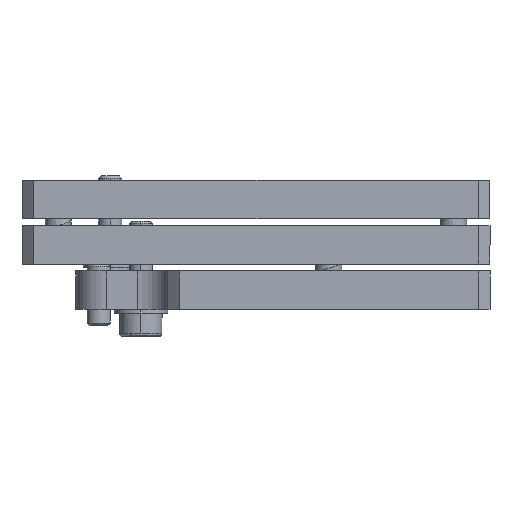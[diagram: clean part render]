
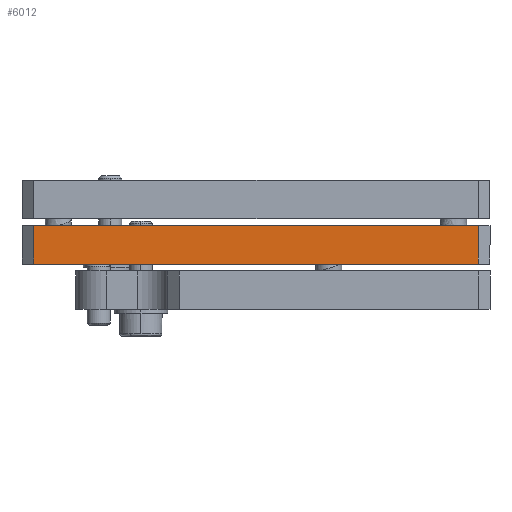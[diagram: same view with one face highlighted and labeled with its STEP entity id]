
A CAD part, front view. The second image highlights one B-rep face of the part: STEP entity #6012.
In plain terms, the highlighted planar face has unit normal (0, -1, 0).
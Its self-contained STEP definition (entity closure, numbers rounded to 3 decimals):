
#810 = CARTESIAN_POINT ( 'NONE',  ( 29.674, -28.407, -5.9 ) ) ;
#868 = CARTESIAN_POINT ( 'NONE',  ( -28.326, -28.407, -5.9 ) ) ;
#869 = DIRECTION ( 'NONE',  ( 1., 0., 0. ) ) ;
#870 = VECTOR ( 'NONE', #869, 1000. ) ;
#871 = CARTESIAN_POINT ( 'NONE',  ( 29.674, -28.407, -5.9 ) ) ;
#872 = LINE ( 'NONE', #871, #870 ) ;
#952 = DIRECTION ( 'NONE',  ( 1., 0., 0. ) ) ;
#953 = VECTOR ( 'NONE', #952, 1000. ) ;
#954 = CARTESIAN_POINT ( 'NONE',  ( -1.259, -28.407, -0.9 ) ) ;
#955 = LINE ( 'NONE', #954, #953 ) ;
#994 = CARTESIAN_POINT ( 'NONE',  ( -28.326, -28.407, -0.9 ) ) ;
#995 = DIRECTION ( 'NONE',  ( 0., 0., -1. ) ) ;
#996 = VECTOR ( 'NONE', #995, 1000. ) ;
#997 = CARTESIAN_POINT ( 'NONE',  ( -28.326, -28.407, -5.9 ) ) ;
#998 = LINE ( 'NONE', #997, #996 ) ;
#1084 = CARTESIAN_POINT ( 'NONE',  ( 29.674, -28.407, -0.9 ) ) ;
#1085 = DIRECTION ( 'NONE',  ( 0., 0., -1. ) ) ;
#1086 = VECTOR ( 'NONE', #1085, 1000. ) ;
#1087 = CARTESIAN_POINT ( 'NONE',  ( 29.674, -28.407, -5.9 ) ) ;
#1088 = LINE ( 'NONE', #1087, #1086 ) ;
#1089 = DIRECTION ( 'NONE',  ( 1., 0., 0. ) ) ;
#1090 = DIRECTION ( 'NONE',  ( 0., -1., 0. ) ) ;
#1091 = CARTESIAN_POINT ( 'NONE',  ( 29.674, -28.407, -5.9 ) ) ;
#1092 = AXIS2_PLACEMENT_3D ( 'NONE', #1091, #1090, #1089 ) ;
#1093 = PLANE ( 'NONE',  #1092 ) ;
#1094 = FACE_OUTER_BOUND ( 'NONE', #6013, .T. ) ;
#5843 = VERTEX_POINT ( 'NONE', #810 ) ;
#5845 = EDGE_CURVE ( 'NONE', #5846, #5843, #872, .T. ) ;
#5846 = VERTEX_POINT ( 'NONE', #868 ) ;
#5940 = EDGE_CURVE ( 'NONE', #5955, #6017, #955, .T. ) ;
#5941 = ORIENTED_EDGE ( 'NONE', *, *, #5954, .T. ) ;
#5954 = EDGE_CURVE ( 'NONE', #5955, #5846, #998, .T. ) ;
#5955 = VERTEX_POINT ( 'NONE', #994 ) ;
#6012 = ADVANCED_FACE ( 'NONE', ( #1094 ), #1093, .T. ) ;
#6013 = EDGE_LOOP ( 'NONE', ( #6014, #6015, #6018, #5941 ) ) ;
#6014 = ORIENTED_EDGE ( 'NONE', *, *, #5845, .T. ) ;
#6015 = ORIENTED_EDGE ( 'NONE', *, *, #6016, .F. ) ;
#6016 = EDGE_CURVE ( 'NONE', #6017, #5843, #1088, .T. ) ;
#6017 = VERTEX_POINT ( 'NONE', #1084 ) ;
#6018 = ORIENTED_EDGE ( 'NONE', *, *, #5940, .F. ) ;
